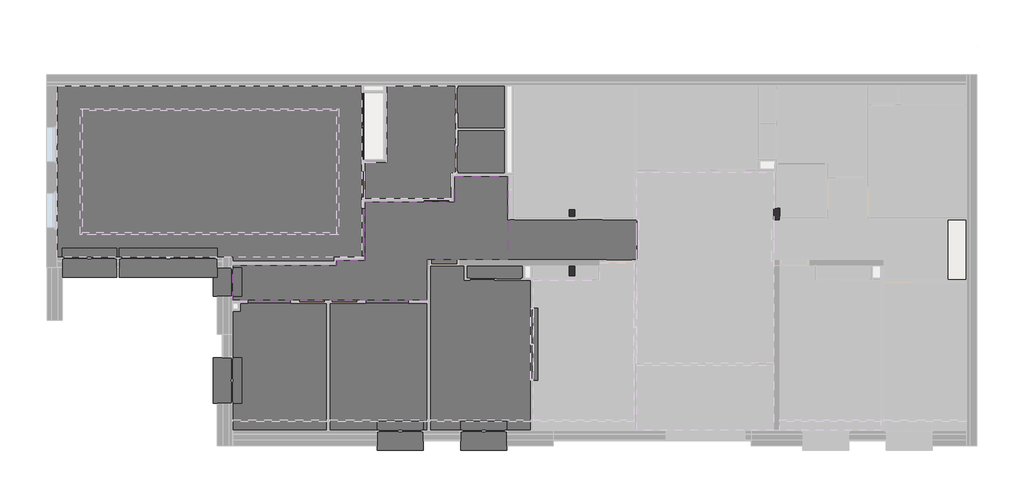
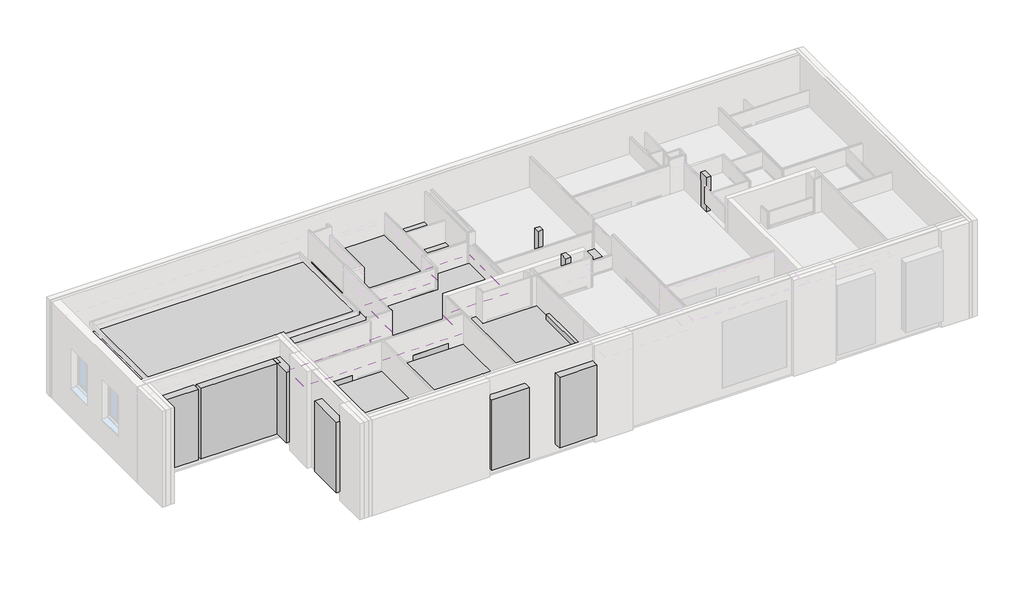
# One storey, part 7 of 8: 26 proxies, 4 furniture elements, 3 columns, 3 slabs, 1 covering.
"""IFC4 building model written with IfcOpenShell, lengths in millimetres."""

from ifc_helpers import new_model, si_unit, frame, origin, origin_with_axes, place, context, project, spatial, polyline, outline, extrude, faceted_brep, transform, mapped, element, save
from components import column_d8b84b54, column_f8625688, column_0d4067bd, furniture_7373fb7a, furniture_89aa0d74, furniture_e10027ee, furniture_c5b035db

model = new_model("IFC4")

# Units and contexts
model_context = context("Model", 3, world=origin())
ifc_project = project(units=[si_unit("LENGTHUNIT", "METRE", prefix="MILLI")], contexts=[model_context])

# Site, building, storey
site = spatial("IfcSite", under=ifc_project)
building = spatial("IfcBuilding", under=site)
storey = spatial("IfcBuildingStorey", under=building, Name="0 Mairie RDC 0.00", Elevation=0.0)

# Proxies
placement = place(None, origin())
element("IfcBuildingElementProxy", 1, Name="Pièces - SECRETARIAT GENERAL 20", ObjectType="Pièces - SECRETARIAT GENERAL 20", at=placement, inside=storey, context=model_context, shape_type="SweptSolid", body=[
    extrude(outline(polyline([(-15705.446161, -8232.7637435), (-15705.446161, -8717.779598), (-15635.446161, -8717.779598), (-15635.446161, -8232.7637435), (-13671.849822, -8232.7637435), (-13671.849822, -8752.7765879), (-13404.255006, -8752.7765879), (-13404.255006, -9728.7649845), (-13354.255006, -9728.7649845), (-13354.255006, -12228.7534329), (-13404.255006, -12228.7534329), (-13404.255006, -13978.5662223), (-14238.6355893, -13978.5662223), (-16905.446161, -13978.5662223), (-16905.446161, -9499.0775347), (-16905.446161, -8232.7637435), (-15705.446161, -8232.7637435)])), origin_with_axes(), (0.0, 0.0, 1.0), 2000.0),
])
element("IfcBuildingElementProxy", 2, Name="Pièces - BUREAU MAIRIE 21", ObjectType="Pièces - BUREAU MAIRIE 21", at=placement, inside=storey, context=model_context, shape_type="SweptSolid", body=[
    extrude(outline(polyline([(-20402.1562042, -13978.5662223), (-20402.1562042, -9549.0775347), (-17005.446161, -9549.0775347), (-17005.446161, -13978.5662223), (-20402.1562042, -13978.5662223)])), origin_with_axes(), (0.0, 0.0, 1.0), 2000.0),
])
element("IfcBuildingElementProxy", 3, Name="Pièces - BUREAU ELUS 22", ObjectType="Pièces - BUREAU ELUS 22", at=placement, inside=storey, context=model_context, shape_type="SweptSolid", body=[
    extrude(outline(polyline([(-23778.2803137, -13978.5662223), (-23778.2803137, -13036.9624952), (-23778.2803137, -10630.5073036), (-23778.2803137, -9829.2788136), (-23520.6325674, -9829.2788136), (-23520.6325674, -9549.0775347), (-20502.1562042, -9549.0775347), (-20502.1562042, -13978.5662223), (-23778.2803137, -13978.5662223)])), origin_with_axes(), (0.0, 0.0, 1.0), 2000.0),
])
element("IfcBuildingElementProxy", 4, Name="Pièces - SALLE DU CONSEIL MARIAGE 23", ObjectType="Pièces - SALLE DU CONSEIL MARIAGE 23", at=placement, inside=storey, context=model_context, shape_type="SweptSolid", body=[
    extrude(outline(polyline([(-19282.1823363, -1972.7637486), (-19282.1823363, -2187.7637486), (-19282.1823363, -4593.7637486), (-19282.1823363, -5962.7637435), (-19282.1823363, -7952.7608719), (-20211.3913721, -7952.7608719), (-20211.3913721, -8080.3569594), (-23778.2803137, -8080.3569594), (-23958.2803137, -7953.0211289), (-29887.0149756, -7953.0211289), (-29887.0149756, -1972.7637486), (-19282.1823363, -1972.7637486)])), origin_with_axes(), (0.0, 0.0, 1.0), 2000.0),
])
element("IfcBuildingElementProxy", 5, Name="Pièces - TOILETTES PUBLIQUES 24", ObjectType="Pièces - TOILETTES PUBLIQUES 24", at=placement, inside=storey, context=model_context, shape_type="SweptSolid", body=[
    extrude(outline(polyline([(-14296.7760862, -1972.7637486), (-14296.7760862, -3451.3428344), (-15980.9503686, -3451.3428344), (-15980.9503686, -3521.3428344), (-14296.7760862, -3521.3428344), (-14296.7760862, -5019.9219201), (-14320.6334573, -5019.9219201), (-16166.6269046, -5019.9219201), (-16166.6269046, -5912.7637435), (-19182.1823363, -5912.7637435), (-19182.1823363, -4643.7637486), (-18412.1823363, -4643.7637486), (-18412.1823363, -2224.3590209), (-18412.1823363, -2222.7637486), (-18412.1823363, -2187.7637486), (-18412.1823363, -1972.7637486), (-14296.7760862, -1972.7637486)])), origin_with_axes(), (0.0, 0.0, 1.0), 2000.0),
])
element("IfcBuildingElementProxy", 6, Name="Pièces - DEGAGEMENT 1 26", ObjectType="Pièces - DEGAGEMENT 1 26", at=placement, inside=storey, context=model_context, shape_type="SweptSolid", body=[
    extrude(outline(polyline([(-9708.4471465, -6632.5340392), (-9708.4471465, -8032.7867091), (-9754.6455383, -8032.7867091), (-11038.1086334, -8032.7637435), (-11858.4196435, -8032.7637435), (-12058.4196435, -8032.7637435), (-13354.255006, -8032.7637435), (-13636.849822, -8032.7637435), (-15670.446161, -8032.7637435), (-17005.446161, -8032.7637435), (-17005.446161, -9449.0775347), (-20452.1562042, -9449.0775347), (-23555.6325674, -9449.0775347), (-23778.2803137, -9449.0775347), (-23778.2803137, -9310.0211289), (-23778.2803137, -8230.3569594), (-20211.3913721, -8230.3569594), (-20211.3913721, -8052.7608719), (-19182.1823363, -8052.7608719), (-19182.1823363, -6012.7637435), (-16066.6269046, -6012.7637435), (-16066.6269046, -5119.9219201), (-14202.6238573, -5119.9219201), (-14202.6238573, -6582.5340392), (-14202.6238573, -6633.7824715), (-14132.6238573, -6633.7824715), (-14132.6238573, -6632.5340392), (-9708.4471465, -6632.5340392)])), origin_with_axes(), (0.0, 0.0, 1.0), 2000.0),
])
element("IfcBuildingElementProxy", 7, Name="Generic Models", at=placement, inside=storey, context=model_context, shape_type="SweptSolid", body=[
    extrude(outline(polyline([(-15905.446161, -8232.7637435), (-16905.446161, -8232.7637435), (-16905.446161, -8032.7637435), (-15905.446161, -8032.7637435), (-15905.446161, -8232.7637435)])), origin_with_axes(), (0.0, 0.0, 1.0), 2075.0),
])
element("IfcBuildingElementProxy", 8, Name="Generic Models", at=placement, inside=storey, context=model_context, shape_type="Brep", body=[
    faceted_brep([(-14238.6355893, -14391.5689782, 0.0), (-14238.6355893, -14058.5662223, 35.0), (-14238.6355893, -14078.5662223, 35.0), (-14238.6355893, -14078.5662223, 3185.0), (-14238.6355893, -14658.5662223, 3185.0), (-14238.6355893, -14658.5662223, 0.0), (-15838.6355893, -13658.5662223, 3185.0), (-15838.6355893, -13658.5662223, 35.0), (-15838.6355893, -13978.5662223, 35.0), (-15838.6355893, -13978.5662223, 3185.0), (-14238.6355893, -13658.5662223, 35.0), (-14238.6355893, -13978.5662223, 35.0), (-14188.6355893, -13978.5662223, 35.0), (-14188.6355893, -14028.5662223, 35.0), (-14228.6355893, -14028.5662223, 35.0), (-14228.6355893, -14078.5662223, 35.0), (-15838.6355893, -14058.5662223, 35.0), (-15838.6355893, -14078.5662223, 35.0), (-15848.6355893, -14078.5662223, 35.0), (-15848.6355893, -14028.5662223, 35.0), (-15888.6355893, -14028.5662223, 35.0), (-15888.6355893, -13978.5662223, 35.0), (-14238.6355893, -13658.5662223, 3185.0), (-15838.6355893, -14658.5662223, 3185.0), (-15838.6355893, -14078.5662223, 3185.0), (-15838.6355893, -14658.5662223, 0.0), (-15838.6355893, -14391.5689782, 0.0), (-14188.6355893, -13978.5662223, 3235.0), (-14188.6355893, -14028.5662223, 3235.0), (-15888.6355893, -14028.5662223, 3235.0), (-15848.6355893, -14028.5662223, 3195.0), (-14228.6355893, -14028.5662223, 3195.0), (-14228.6355893, -14078.5662223, 3195.0), (-15848.6355893, -14078.5662223, 3195.0), (-14238.6355893, -13978.5662223, 3185.0), (-15888.6355893, -13978.5662223, 3235.0)], [[[0, 1, 2, 3, 4, 5]], [[6, 7, 8, 9]], [[7, 10, 11, 12, 13, 14, 15, 2, 1, 16, 17, 18, 19, 20, 21, 8]], [[22, 10, 7, 6]], [[23, 4, 3, 24]], [[5, 4, 23, 25]], [[0, 5, 25, 26]], [[1, 0, 26, 16]], [[13, 12, 27, 28]], [[14, 13, 28, 29, 20, 19, 30, 31]], [[15, 14, 31, 32]], [[2, 15, 32, 33, 18, 17, 24, 3]], [[12, 11, 34, 9, 8, 21, 35, 27]], [[28, 27, 35, 29]], [[31, 30, 33, 32]], [[20, 29, 35, 21]], [[30, 19, 18, 33]], [[22, 6, 9, 34]], [[25, 23, 24, 17, 16, 26]], [[10, 22, 34, 11]]]),
])
element("IfcBuildingElementProxy", 9, Name="Generic Models", at=placement, inside=storey, context=model_context, shape_type="Brep", body=[
    faceted_brep([(-14238.6355893, -14391.5689782, 0.0), (-14238.6355893, -14058.5662223, 35.0), (-14238.6355893, -14078.5662223, 35.0), (-14238.6355893, -14078.5662223, 3185.0), (-14238.6355893, -14658.5662223, 3185.0), (-14238.6355893, -14658.5662223, 0.0), (-15838.6355893, -13658.5662223, 3185.0), (-15838.6355893, -13658.5662223, 35.0), (-15838.6355893, -13978.5662223, 35.0), (-15838.6355893, -13978.5662223, 3185.0), (-14238.6355893, -13658.5662223, 35.0), (-14238.6355893, -13978.5662223, 35.0), (-14188.6355893, -13978.5662223, 35.0), (-14188.6355893, -14028.5662223, 35.0), (-14228.6355893, -14028.5662223, 35.0), (-14228.6355893, -14078.5662223, 35.0), (-15838.6355893, -14058.5662223, 35.0), (-15838.6355893, -14078.5662223, 35.0), (-15848.6355893, -14078.5662223, 35.0), (-15848.6355893, -14028.5662223, 35.0), (-15888.6355893, -14028.5662223, 35.0), (-15888.6355893, -13978.5662223, 35.0), (-14238.6355893, -13658.5662223, 3185.0), (-15838.6355893, -14658.5662223, 3185.0), (-15838.6355893, -14078.5662223, 3185.0), (-15838.6355893, -14658.5662223, 0.0), (-15838.6355893, -14391.5689782, 0.0), (-14188.6355893, -13978.5662223, 3235.0), (-14188.6355893, -14028.5662223, 3235.0), (-15888.6355893, -14028.5662223, 3235.0), (-15848.6355893, -14028.5662223, 3195.0), (-14228.6355893, -14028.5662223, 3195.0), (-14228.6355893, -14078.5662223, 3195.0), (-15848.6355893, -14078.5662223, 3195.0), (-14238.6355893, -13978.5662223, 3185.0), (-15888.6355893, -13978.5662223, 3235.0)], [[[0, 1, 2, 3, 4, 5]], [[6, 7, 8, 9]], [[7, 10, 11, 12, 13, 14, 15, 2, 1, 16, 17, 18, 19, 20, 21, 8]], [[22, 10, 7, 6]], [[23, 4, 3, 24]], [[5, 4, 23, 25]], [[0, 5, 25, 26]], [[1, 0, 26, 16]], [[13, 12, 27, 28]], [[14, 13, 28, 29, 20, 19, 30, 31]], [[15, 14, 31, 32]], [[2, 15, 32, 33, 18, 17, 24, 3]], [[12, 11, 34, 9, 8, 21, 35, 27]], [[28, 27, 35, 29]], [[31, 30, 33, 32]], [[20, 29, 35, 21]], [[30, 19, 18, 33]], [[22, 6, 9, 34]], [[25, 23, 24, 17, 16, 26]], [[10, 22, 34, 11]]]),
])
element("IfcBuildingElementProxy", 10, Name="Generic Models", at=placement, inside=storey, context=model_context, shape_type="Brep", body=[
    faceted_brep([(-17138.6355893, -14391.5689782, 0.0), (-17138.6355893, -14058.5662223, 35.0), (-17138.6355893, -14078.5662223, 35.0), (-17138.6355893, -14078.5662223, 3185.0), (-17138.6355893, -14658.5662223, 3185.0), (-17138.6355893, -14658.5662223, 0.0), (-18738.6355893, -13658.5662223, 3185.0), (-18738.6355893, -13658.5662223, 35.0), (-18738.6355893, -13978.5662223, 35.0), (-18738.6355893, -13978.5662223, 3185.0), (-17138.6355893, -13658.5662223, 35.0), (-17138.6355893, -13978.5662223, 35.0), (-17088.6355893, -13978.5662223, 35.0), (-17088.6355893, -14028.5662223, 35.0), (-17128.6355893, -14028.5662223, 35.0), (-17128.6355893, -14078.5662223, 35.0), (-18738.6355893, -14058.5662223, 35.0), (-18738.6355893, -14078.5662223, 35.0), (-18748.6355893, -14078.5662223, 35.0), (-18748.6355893, -14028.5662223, 35.0), (-18788.6355893, -14028.5662223, 35.0), (-18788.6355893, -13978.5662223, 35.0), (-17138.6355893, -13658.5662223, 3185.0), (-18738.6355893, -14658.5662223, 3185.0), (-18738.6355893, -14078.5662223, 3185.0), (-18738.6355893, -14658.5662223, 0.0), (-18738.6355893, -14391.5689782, 0.0), (-17088.6355893, -13978.5662223, 3235.0), (-17088.6355893, -14028.5662223, 3235.0), (-18788.6355893, -14028.5662223, 3235.0), (-18748.6355893, -14028.5662223, 3195.0), (-17128.6355893, -14028.5662223, 3195.0), (-17128.6355893, -14078.5662223, 3195.0), (-18748.6355893, -14078.5662223, 3195.0), (-17138.6355893, -13978.5662223, 3185.0), (-18788.6355893, -13978.5662223, 3235.0)], [[[0, 1, 2, 3, 4, 5]], [[6, 7, 8, 9]], [[7, 10, 11, 12, 13, 14, 15, 2, 1, 16, 17, 18, 19, 20, 21, 8]], [[22, 10, 7, 6]], [[23, 4, 3, 24]], [[5, 4, 23, 25]], [[0, 5, 25, 26]], [[1, 0, 26, 16]], [[13, 12, 27, 28]], [[14, 13, 28, 29, 20, 19, 30, 31]], [[15, 14, 31, 32]], [[2, 15, 32, 33, 18, 17, 24, 3]], [[12, 11, 34, 9, 8, 21, 35, 27]], [[28, 27, 35, 29]], [[31, 30, 33, 32]], [[20, 29, 35, 21]], [[30, 19, 18, 33]], [[22, 6, 9, 34]], [[25, 23, 24, 17, 16, 26]], [[10, 22, 34, 11]]]),
])
element("IfcBuildingElementProxy", 11, Name="Generic Models", at=placement, inside=storey, context=model_context, shape_type="Brep", body=[
    faceted_brep([(-17138.6355893, -14391.5689782, 0.0), (-17138.6355893, -14058.5662223, 35.0), (-17138.6355893, -14078.5662223, 35.0), (-17138.6355893, -14078.5662223, 3185.0), (-17138.6355893, -14658.5662223, 3185.0), (-17138.6355893, -14658.5662223, 0.0), (-18738.6355893, -13658.5662223, 3185.0), (-18738.6355893, -13658.5662223, 35.0), (-18738.6355893, -13978.5662223, 35.0), (-18738.6355893, -13978.5662223, 3185.0), (-17138.6355893, -13658.5662223, 35.0), (-17138.6355893, -13978.5662223, 35.0), (-17088.6355893, -13978.5662223, 35.0), (-17088.6355893, -14028.5662223, 35.0), (-17128.6355893, -14028.5662223, 35.0), (-17128.6355893, -14078.5662223, 35.0), (-18738.6355893, -14058.5662223, 35.0), (-18738.6355893, -14078.5662223, 35.0), (-18748.6355893, -14078.5662223, 35.0), (-18748.6355893, -14028.5662223, 35.0), (-18788.6355893, -14028.5662223, 35.0), (-18788.6355893, -13978.5662223, 35.0), (-17138.6355893, -13658.5662223, 3185.0), (-18738.6355893, -14658.5662223, 3185.0), (-18738.6355893, -14078.5662223, 3185.0), (-18738.6355893, -14658.5662223, 0.0), (-18738.6355893, -14391.5689782, 0.0), (-17088.6355893, -13978.5662223, 3235.0), (-17088.6355893, -14028.5662223, 3235.0), (-18788.6355893, -14028.5662223, 3235.0), (-18748.6355893, -14028.5662223, 3195.0), (-17128.6355893, -14028.5662223, 3195.0), (-17128.6355893, -14078.5662223, 3195.0), (-18748.6355893, -14078.5662223, 3195.0), (-17138.6355893, -13978.5662223, 3185.0), (-18788.6355893, -13978.5662223, 3235.0)], [[[0, 1, 2, 3, 4, 5]], [[6, 7, 8, 9]], [[7, 10, 11, 12, 13, 14, 15, 2, 1, 16, 17, 18, 19, 20, 21, 8]], [[22, 10, 7, 6]], [[23, 4, 3, 24]], [[5, 4, 23, 25]], [[0, 5, 25, 26]], [[1, 0, 26, 16]], [[13, 12, 27, 28]], [[14, 13, 28, 29, 20, 19, 30, 31]], [[15, 14, 31, 32]], [[2, 15, 32, 33, 18, 17, 24, 3]], [[12, 11, 34, 9, 8, 21, 35, 27]], [[28, 27, 35, 29]], [[31, 30, 33, 32]], [[20, 29, 35, 21]], [[30, 19, 18, 33]], [[22, 6, 9, 34]], [[25, 23, 24, 17, 16, 26]], [[10, 22, 34, 11]]]),
])
element("IfcBuildingElementProxy", 12, Name="Generic Models", at=placement, inside=storey, context=model_context, shape_type="Brep", body=[
    faceted_brep([(-24191.2830696, -13036.9624952, 0.0), (-23858.2803137, -13036.9624952, 35.0), (-23878.2803137, -13036.9624952, 35.0), (-23878.2803137, -13036.9624952, 3185.0), (-24458.2803137, -13036.9624952, 3185.0), (-24458.2803137, -13036.9624952, 0.0), (-23458.2803137, -11436.9624952, 3185.0), (-23458.2803137, -11436.9624952, 35.0), (-23778.2803137, -11436.9624952, 35.0), (-23778.2803137, -11436.9624952, 3185.0), (-23458.2803137, -13036.9624952, 35.0), (-23778.2803137, -13036.9624952, 35.0), (-23778.2803137, -13086.9624952, 35.0), (-23828.2803137, -13086.9624952, 35.0), (-23828.2803137, -13046.9624952, 35.0), (-23878.2803137, -13046.9624952, 35.0), (-23858.2803137, -11436.9624952, 35.0), (-23878.2803137, -11436.9624952, 35.0), (-23878.2803137, -11426.9624952, 35.0), (-23828.2803137, -11426.9624952, 35.0), (-23828.2803137, -11386.9624952, 35.0), (-23778.2803137, -11386.9624952, 35.0), (-23458.2803137, -13036.9624952, 3185.0), (-24458.2803137, -11436.9624952, 3185.0), (-23878.2803137, -11436.9624952, 3185.0), (-24458.2803137, -11436.9624952, 0.0), (-24191.2830696, -11436.9624952, 0.0), (-23778.2803137, -13086.9624952, 3235.0), (-23828.2803137, -13086.9624952, 3235.0), (-23828.2803137, -11386.9624952, 3235.0), (-23828.2803137, -11426.9624952, 3195.0), (-23828.2803137, -13046.9624952, 3195.0), (-23878.2803137, -13046.9624952, 3195.0), (-23878.2803137, -11426.9624952, 3195.0), (-23778.2803137, -13036.9624952, 3185.0), (-23778.2803137, -11386.9624952, 3235.0)], [[[0, 1, 2, 3, 4, 5]], [[6, 7, 8, 9]], [[7, 10, 11, 12, 13, 14, 15, 2, 1, 16, 17, 18, 19, 20, 21, 8]], [[22, 10, 7, 6]], [[23, 4, 3, 24]], [[5, 4, 23, 25]], [[0, 5, 25, 26]], [[1, 0, 26, 16]], [[13, 12, 27, 28]], [[14, 13, 28, 29, 20, 19, 30, 31]], [[15, 14, 31, 32]], [[2, 15, 32, 33, 18, 17, 24, 3]], [[12, 11, 34, 9, 8, 21, 35, 27]], [[28, 27, 35, 29]], [[31, 30, 33, 32]], [[20, 29, 35, 21]], [[30, 19, 18, 33]], [[22, 6, 9, 34]], [[25, 23, 24, 17, 16, 26]], [[10, 22, 34, 11]]]),
])
element("IfcBuildingElementProxy", 13, Name="Generic Models", at=placement, inside=storey, context=model_context, shape_type="Brep", body=[
    faceted_brep([(-24191.2830696, -13036.9624952, 0.0), (-23858.2803137, -13036.9624952, 35.0), (-23878.2803137, -13036.9624952, 35.0), (-23878.2803137, -13036.9624952, 3185.0), (-24458.2803137, -13036.9624952, 3185.0), (-24458.2803137, -13036.9624952, 0.0), (-23458.2803137, -11436.9624952, 3185.0), (-23458.2803137, -11436.9624952, 35.0), (-23778.2803137, -11436.9624952, 35.0), (-23778.2803137, -11436.9624952, 3185.0), (-23458.2803137, -13036.9624952, 35.0), (-23778.2803137, -13036.9624952, 35.0), (-23778.2803137, -13086.9624952, 35.0), (-23828.2803137, -13086.9624952, 35.0), (-23828.2803137, -13046.9624952, 35.0), (-23878.2803137, -13046.9624952, 35.0), (-23858.2803137, -11436.9624952, 35.0), (-23878.2803137, -11436.9624952, 35.0), (-23878.2803137, -11426.9624952, 35.0), (-23828.2803137, -11426.9624952, 35.0), (-23828.2803137, -11386.9624952, 35.0), (-23778.2803137, -11386.9624952, 35.0), (-23458.2803137, -13036.9624952, 3185.0), (-24458.2803137, -11436.9624952, 3185.0), (-23878.2803137, -11436.9624952, 3185.0), (-24458.2803137, -11436.9624952, 0.0), (-24191.2830696, -11436.9624952, 0.0), (-23778.2803137, -13086.9624952, 3235.0), (-23828.2803137, -13086.9624952, 3235.0), (-23828.2803137, -11386.9624952, 3235.0), (-23828.2803137, -11426.9624952, 3195.0), (-23828.2803137, -13046.9624952, 3195.0), (-23878.2803137, -13046.9624952, 3195.0), (-23878.2803137, -11426.9624952, 3195.0), (-23778.2803137, -13036.9624952, 3185.0), (-23778.2803137, -11386.9624952, 3235.0)], [[[0, 1, 2, 3, 4, 5]], [[6, 7, 8, 9]], [[7, 10, 11, 12, 13, 14, 15, 2, 1, 16, 17, 18, 19, 20, 21, 8]], [[22, 10, 7, 6]], [[23, 4, 3, 24]], [[5, 4, 23, 25]], [[0, 5, 25, 26]], [[1, 0, 26, 16]], [[13, 12, 27, 28]], [[14, 13, 28, 29, 20, 19, 30, 31]], [[15, 14, 31, 32]], [[2, 15, 32, 33, 18, 17, 24, 3]], [[12, 11, 34, 9, 8, 21, 35, 27]], [[28, 27, 35, 29]], [[31, 30, 33, 32]], [[20, 29, 35, 21]], [[30, 19, 18, 33]], [[22, 6, 9, 34]], [[25, 23, 24, 17, 16, 26]], [[10, 22, 34, 11]]]),
])
element("IfcBuildingElementProxy", 14, Name="Generic Models", at=placement, inside=storey, context=model_context, shape_type="Brep", body=[
    faceted_brep([(-24191.2830696, -9310.0211289, 0.0), (-23858.2803137, -9310.0211289, 35.0), (-23878.2803137, -9310.0211289, 35.0), (-23878.2803137, -9310.0211289, 3185.0), (-24458.2803137, -9310.0211289, 3185.0), (-24458.2803137, -9310.0211289, 0.0), (-23458.2803137, -8310.0211289, 3185.0), (-23458.2803137, -8310.0211289, 35.0), (-23778.2803137, -8310.0211289, 35.0), (-23778.2803137, -8310.0211289, 3185.0), (-23458.2803137, -9310.0211289, 35.0), (-23778.2803137, -9310.0211289, 35.0), (-23778.2803137, -9360.0211289, 35.0), (-23828.2803137, -9360.0211289, 35.0), (-23828.2803137, -9320.0211289, 35.0), (-23878.2803137, -9320.0211289, 35.0), (-23858.2803137, -8310.0211289, 35.0), (-23878.2803137, -8310.0211289, 35.0), (-23878.2803137, -8300.0211289, 35.0), (-23828.2803137, -8300.0211289, 35.0), (-23828.2803137, -8260.0211289, 35.0), (-23778.2803137, -8260.0211289, 35.0), (-23458.2803137, -9310.0211289, 3185.0), (-24458.2803137, -8310.0211289, 3185.0), (-23878.2803137, -8310.0211289, 3185.0), (-24458.2803137, -8310.0211289, 0.0), (-24191.2830696, -8310.0211289, 0.0), (-23778.2803137, -9360.0211289, 3235.0), (-23828.2803137, -9360.0211289, 3235.0), (-23828.2803137, -8260.0211289, 3235.0), (-23828.2803137, -8300.0211289, 3195.0), (-23828.2803137, -9320.0211289, 3195.0), (-23878.2803137, -9320.0211289, 3195.0), (-23878.2803137, -8300.0211289, 3195.0), (-23778.2803137, -9310.0211289, 3185.0), (-23778.2803137, -8260.0211289, 3235.0)], [[[0, 1, 2, 3, 4, 5]], [[6, 7, 8, 9]], [[7, 10, 11, 12, 13, 14, 15, 2, 1, 16, 17, 18, 19, 20, 21, 8]], [[22, 10, 7, 6]], [[23, 4, 3, 24]], [[5, 4, 23, 25]], [[0, 5, 25, 26]], [[1, 0, 26, 16]], [[13, 12, 27, 28]], [[14, 13, 28, 29, 20, 19, 30, 31]], [[15, 14, 31, 32]], [[2, 15, 32, 33, 18, 17, 24, 3]], [[12, 11, 34, 9, 8, 21, 35, 27]], [[28, 27, 35, 29]], [[31, 30, 33, 32]], [[20, 29, 35, 21]], [[30, 19, 18, 33]], [[22, 6, 9, 34]], [[25, 23, 24, 17, 16, 26]], [[10, 22, 34, 11]]]),
])
element("IfcBuildingElementProxy", 15, Name="Generic Models", at=placement, inside=storey, context=model_context, shape_type="Brep", body=[
    faceted_brep([(-24191.2830696, -9310.0211289, 0.0), (-23858.2803137, -9310.0211289, 35.0), (-23878.2803137, -9310.0211289, 35.0), (-23878.2803137, -9310.0211289, 3185.0), (-24458.2803137, -9310.0211289, 3185.0), (-24458.2803137, -9310.0211289, 0.0), (-23458.2803137, -8310.0211289, 3185.0), (-23458.2803137, -8310.0211289, 35.0), (-23778.2803137, -8310.0211289, 35.0), (-23778.2803137, -8310.0211289, 3185.0), (-23458.2803137, -9310.0211289, 35.0), (-23778.2803137, -9310.0211289, 35.0), (-23778.2803137, -9360.0211289, 35.0), (-23828.2803137, -9360.0211289, 35.0), (-23828.2803137, -9320.0211289, 35.0), (-23878.2803137, -9320.0211289, 35.0), (-23858.2803137, -8310.0211289, 35.0), (-23878.2803137, -8310.0211289, 35.0), (-23878.2803137, -8300.0211289, 35.0), (-23828.2803137, -8300.0211289, 35.0), (-23828.2803137, -8260.0211289, 35.0), (-23778.2803137, -8260.0211289, 35.0), (-23458.2803137, -9310.0211289, 3185.0), (-24458.2803137, -8310.0211289, 3185.0), (-23878.2803137, -8310.0211289, 3185.0), (-24458.2803137, -8310.0211289, 0.0), (-24191.2830696, -8310.0211289, 0.0), (-23778.2803137, -9360.0211289, 3235.0), (-23828.2803137, -9360.0211289, 3235.0), (-23828.2803137, -8260.0211289, 3235.0), (-23828.2803137, -8300.0211289, 3195.0), (-23828.2803137, -9320.0211289, 3195.0), (-23878.2803137, -9320.0211289, 3195.0), (-23878.2803137, -8300.0211289, 3195.0), (-23778.2803137, -9310.0211289, 3185.0), (-23778.2803137, -8260.0211289, 3235.0)], [[[0, 1, 2, 3, 4, 5]], [[6, 7, 8, 9]], [[7, 10, 11, 12, 13, 14, 15, 2, 1, 16, 17, 18, 19, 20, 21, 8]], [[22, 10, 7, 6]], [[23, 4, 3, 24]], [[5, 4, 23, 25]], [[0, 5, 25, 26]], [[1, 0, 26, 16]], [[13, 12, 27, 28]], [[14, 13, 28, 29, 20, 19, 30, 31]], [[15, 14, 31, 32]], [[2, 15, 32, 33, 18, 17, 24, 3]], [[12, 11, 34, 9, 8, 21, 35, 27]], [[28, 27, 35, 29]], [[31, 30, 33, 32]], [[20, 29, 35, 21]], [[30, 19, 18, 33]], [[22, 6, 9, 34]], [[25, 23, 24, 17, 16, 26]], [[10, 22, 34, 11]]]),
])
element("IfcBuildingElementProxy", 16, Name="Generic Models", at=placement, inside=storey, context=model_context, shape_type="Brep", body=[
    faceted_brep([(-27823.4832661, -8366.0238848, 0.0), (-27823.4832661, -8033.0211289, 35.0), (-27823.4832661, -8053.0211289, 35.0), (-27823.4832661, -8053.0211289, 3185.0), (-27823.4832661, -8633.0211289, 3185.0), (-27823.4832661, -8633.0211289, 0.0), (-29723.4832661, -7633.0211289, 3185.0), (-29723.4832661, -7633.0211289, 35.0), (-29723.4832661, -7953.0211289, 35.0), (-29723.4832661, -7953.0211289, 3185.0), (-27823.4832661, -7633.0211289, 35.0), (-27823.4832661, -7953.0211289, 35.0), (-27773.4832661, -7953.0211289, 35.0), (-27773.4832661, -8003.0211289, 35.0), (-27813.4832661, -8003.0211289, 35.0), (-27813.4832661, -8053.0211289, 35.0), (-29723.4832661, -8033.0211289, 35.0), (-29723.4832661, -8053.0211289, 35.0), (-29733.4832661, -8053.0211289, 35.0), (-29733.4832661, -8003.0211289, 35.0), (-29773.4832661, -8003.0211289, 35.0), (-29773.4832661, -7953.0211289, 35.0), (-27823.4832661, -7633.0211289, 3185.0), (-29723.4832661, -8633.0211289, 3185.0), (-29723.4832661, -8053.0211289, 3185.0), (-29723.4832661, -8633.0211289, 0.0), (-29723.4832661, -8366.0238848, 0.0), (-27773.4832661, -7953.0211289, 3235.0), (-27773.4832661, -8003.0211289, 3235.0), (-29773.4832661, -8003.0211289, 3235.0), (-29733.4832661, -8003.0211289, 3195.0), (-27813.4832661, -8003.0211289, 3195.0), (-27813.4832661, -8053.0211289, 3195.0), (-29733.4832661, -8053.0211289, 3195.0), (-27823.4832661, -7953.0211289, 3185.0), (-29773.4832661, -7953.0211289, 3235.0)], [[[0, 1, 2, 3, 4, 5]], [[6, 7, 8, 9]], [[7, 10, 11, 12, 13, 14, 15, 2, 1, 16, 17, 18, 19, 20, 21, 8]], [[22, 10, 7, 6]], [[23, 4, 3, 24]], [[5, 4, 23, 25]], [[0, 5, 25, 26]], [[1, 0, 26, 16]], [[13, 12, 27, 28]], [[14, 13, 28, 29, 20, 19, 30, 31]], [[15, 14, 31, 32]], [[2, 15, 32, 33, 18, 17, 24, 3]], [[12, 11, 34, 9, 8, 21, 35, 27]], [[28, 27, 35, 29]], [[31, 30, 33, 32]], [[20, 29, 35, 21]], [[30, 19, 18, 33]], [[22, 6, 9, 34]], [[25, 23, 24, 17, 16, 26]], [[10, 22, 34, 11]]]),
])
element("IfcBuildingElementProxy", 17, Name="Generic Models", at=placement, inside=storey, context=model_context, shape_type="Brep", body=[
    faceted_brep([(-24322.6070707, -8366.0238848, 0.0), (-24322.6070707, -8033.0211289, 35.0), (-24322.6070707, -8053.0211289, 35.0), (-24322.6070707, -8053.0211289, 3185.0), (-24322.6070707, -8633.0211289, 3185.0), (-24322.6070707, -8633.0211289, 0.0), (-27722.6070707, -7633.0211289, 3185.0), (-27722.6070707, -7633.0211289, 35.0), (-27722.6070707, -7953.0211289, 35.0), (-27722.6070707, -7953.0211289, 3185.0), (-24322.6070707, -7633.0211289, 35.0), (-24322.6070707, -7953.0211289, 35.0), (-24272.6070707, -7953.0211289, 35.0), (-24272.6070707, -8003.0211289, 35.0), (-24312.6070707, -8003.0211289, 35.0), (-24312.6070707, -8053.0211289, 35.0), (-27722.6070707, -8033.0211289, 35.0), (-27722.6070707, -8053.0211289, 35.0), (-27732.6070707, -8053.0211289, 35.0), (-27732.6070707, -8003.0211289, 35.0), (-27772.6070707, -8003.0211289, 35.0), (-27772.6070707, -7953.0211289, 35.0), (-24322.6070707, -7633.0211289, 3185.0), (-27722.6070707, -8633.0211289, 3185.0), (-27722.6070707, -8053.0211289, 3185.0), (-27722.6070707, -8633.0211289, 0.0), (-27722.6070707, -8366.0238848, 0.0), (-24272.6070707, -7953.0211289, 3235.0), (-24272.6070707, -8003.0211289, 3235.0), (-27772.6070707, -8003.0211289, 3235.0), (-27732.6070707, -8003.0211289, 3195.0), (-24312.6070707, -8003.0211289, 3195.0), (-24312.6070707, -8053.0211289, 3195.0), (-27732.6070707, -8053.0211289, 3195.0), (-24322.6070707, -7953.0211289, 3185.0), (-27772.6070707, -7953.0211289, 3235.0)], [[[0, 1, 2, 3, 4, 5]], [[6, 7, 8, 9]], [[7, 10, 11, 12, 13, 14, 15, 2, 1, 16, 17, 18, 19, 20, 21, 8]], [[22, 10, 7, 6]], [[23, 4, 3, 24]], [[5, 4, 23, 25]], [[0, 5, 25, 26]], [[1, 0, 26, 16]], [[13, 12, 27, 28]], [[14, 13, 28, 29, 20, 19, 30, 31]], [[15, 14, 31, 32]], [[2, 15, 32, 33, 18, 17, 24, 3]], [[12, 11, 34, 9, 8, 21, 35, 27]], [[28, 27, 35, 29]], [[31, 30, 33, 32]], [[20, 29, 35, 21]], [[30, 19, 18, 33]], [[22, 6, 9, 34]], [[25, 23, 24, 17, 16, 26]], [[10, 22, 34, 11]]]),
])
element("IfcBuildingElementProxy", 18, Name="Generic Models", at=placement, inside=storey, context=model_context, shape_type="SweptSolid", body=[
    extrude(outline(polyline([(-13556.655006, -12228.7649845), (-13556.655006, -9728.7649845), (-13151.855006, -9728.7649845), (-13151.855006, -12228.7649845), (-13556.655006, -12228.7649845)])), origin_with_axes(), (0.0, 0.0, 1.0), 2250.0),
])
element("IfcBuildingElementProxy", 19, Name="Generic Models", at=placement, inside=storey, context=model_context, shape_type="SweptSolid", body=[
    extrude(outline(polyline([(-17181.6269046, -5912.7637435), (-16181.6269046, -5912.7637435), (-16181.6269046, -6012.7637435), (-17181.6269046, -6012.7637435), (-17181.6269046, -5912.7637435)])), origin_with_axes(), (0.0, 0.0, 1.0), 2075.0),
])
element("IfcBuildingElementProxy", 20, Name="Generic Models", at=placement, inside=storey, context=model_context, shape_type="SweptSolid", body=[
    extrude(outline(polyline([(-19282.1823363, -4542.7637486), (-19282.1823363, -2222.7637486), (-19212.1823363, -2222.7637486), (-19212.1823363, -4542.7637486), (-19282.1823363, -4542.7637486)])), origin_with_axes(), (0.0, 0.0, 1.0), 2100.0),
])
element("IfcBuildingElementProxy", 21, Name="Generic Models", at=placement, inside=storey, context=model_context, shape_type="SweptSolid", body=[
    extrude(outline(polyline([(-19147.7536837, -9449.0775347), (-17647.7536837, -9449.0775347), (-17647.7536837, -9549.0775347), (-19147.7536837, -9549.0775347), (-19147.7536837, -9449.0775347)])), frame((0.0, 0.0, 1000.0), z_axis=(0.0, 0.0, 1.0), x_axis=(1.0, 0.0, 0.0)), (0.0, 0.0, 1.0), 1250.0),
])
element("IfcBuildingElementProxy", 22, Name="Generic Models", at=placement, inside=storey, context=model_context, shape_type="SweptSolid", body=[
    extrude(outline(polyline([(-23250.7759366, -9449.0775347), (-21750.7759366, -9449.0775347), (-21750.7759366, -9549.0775347), (-23250.7759366, -9549.0775347), (-23250.7759366, -9449.0775347)])), frame((0.0, 0.0, 1000.0), z_axis=(0.0, 0.0, 1.0), x_axis=(1.0, 0.0, 0.0)), (0.0, 0.0, 1.0), 1250.0),
])
element("IfcBuildingElementProxy", 23, Name="Generic Models", at=placement, inside=storey, context=model_context, shape_type="SweptSolid", body=[
    extrude(outline(polyline([(-20517.1562042, -9549.0775347), (-21517.1562042, -9549.0775347), (-21517.1562042, -9449.0775347), (-20517.1562042, -9449.0775347), (-20517.1562042, -9549.0775347)])), origin_with_axes(), (0.0, 0.0, 1.0), 2075.0),
])
element("IfcBuildingElementProxy", 24, Name="Generic Models", at=placement, inside=storey, context=model_context, shape_type="SweptSolid", body=[
    extrude(outline(polyline([(-19387.1562042, -9549.0775347), (-20387.1562042, -9549.0775347), (-20387.1562042, -9449.0775347), (-19387.1562042, -9449.0775347), (-19387.1562042, -9549.0775347)])), origin_with_axes(), (0.0, 0.0, 1.0), 2075.0),
])
element("IfcBuildingElementProxy", 25, Name="Generic Models", at=placement, inside=storey, context=model_context, shape_type="SweptSolid", body=[
    extrude(outline(polyline([(-19182.1823363, -4897.7637435), (-19182.1823363, -5897.7637435), (-19282.1823363, -5897.7637435), (-19282.1823363, -4897.7637435), (-19182.1823363, -4897.7637435)])), origin_with_axes(), (0.0, 0.0, 1.0), 2075.0),
])
element("IfcBuildingElementProxy", 26, Name="Generic Models", at=placement, inside=storey, context=model_context, shape_type="SweptSolid", body=[
    extrude(outline(polyline([(-19282.1823363, -7914.4612155), (-19282.1823363, -6244.4612155), (-19182.1823363, -6244.4612155), (-19182.1823363, -7914.4612155), (-19282.1823363, -7914.4612155)])), origin_with_axes(), (0.0, 0.0, 1.0), 2075.0),
])

# Columns
column_shape = column_d8b84b54(model_context)
element("IfcColumn", 27, ObjectType="Poteaux porteurs - Poteau béton - Rectangulaire - 2000mm x 400mm", at=placement, inside=storey, context=model_context, shape_type="MappedRepresentation", body=[
    mapped(column_shape, transform((-4827.496702, -6433.7824715, 0.0), x_axis=(1.0, 0.0, 0.0), y_axis=(0.0, 1.0, 0.0), z_axis=(0.0, 0.0, 1.0))),
])
column_2_shape = column_f8625688(model_context)
element("IfcColumn", 28, ObjectType="Poteaux porteurs - Poteau béton - Rectangulaire - 2000mm x 240 mm", at=placement, inside=storey, context=model_context, shape_type="MappedRepresentation", body=[
    mapped(column_2_shape, transform((-11958.5461708, -6412.5340392, 0.0), x_axis=(1.0, 0.0, 0.0), y_axis=(0.0, 1.0, 0.0), z_axis=(0.0, 0.0, 1.0))),
])
column_3_shape = column_0d4067bd(model_context)
element("IfcColumn", 29, ObjectType="Poteaux porteurs - Poteau béton - Rectangulaire - 2000mm x 350 mm", at=placement, inside=storey, context=model_context, shape_type="MappedRepresentation", body=[
    mapped(column_3_shape, transform((0.0, 0.0, 0.0), x_axis=(1.0, 0.0, 0.0), y_axis=(0.0, 1.0, 0.0), z_axis=(0.0, 0.0, 1.0))),
])

# Covering
element("IfcCovering", 30, ObjectType="Plafonds - Plafond composé - A Plafond plaque de platre ba10 (5)", at=placement, inside=storey, context=model_context, shape_type="SweptSolid", body=[
    extrude(outline(polyline([(-23778.2803137, -9449.0775347), (-23778.2803137, -8230.3569594), (-20176.3913721, -8230.3569594), (-20176.3913721, -8052.7608719), (-19182.1823363, -8052.7608719), (-19182.1823363, -6012.7637435), (-16066.6269046, -6012.7637435), (-16066.6269046, -5119.9219201), (-14202.6238573, -5119.9219201), (-14202.6238573, -6679.7637435), (-14202.6238573, -8032.7637435), (-17005.446161, -8032.7637435), (-17005.446161, -9449.0775347), (-23778.2803137, -9449.0775347)])), frame((0.0, 0.0, 2400.0), z_axis=(0.0, 0.0, 1.0), x_axis=(1.0, 0.0, 0.0)), (0.0, 0.0, 1.0), 40.0),
    extrude(outline(polyline([(-23778.2803137, -9449.0775347), (-23778.2803137, -8230.3569594), (-20176.3913721, -8230.3569594), (-20176.3913721, -8052.7608719), (-19182.1823363, -8052.7608719), (-19182.1823363, -6012.7637435), (-16066.6269046, -6012.7637435), (-16066.6269046, -5119.9219201), (-14202.6238573, -5119.9219201), (-14202.6238573, -6679.7637435), (-14202.6238573, -8032.7637435), (-17005.446161, -8032.7637435), (-17005.446161, -9449.0775347), (-23778.2803137, -9449.0775347)])), frame((0.0, 0.0, 2440.0), z_axis=(0.0, 0.0, 1.0), x_axis=(1.0, 0.0, 0.0)), (0.0, 0.0, 1.0), 10.0),
    extrude(outline(polyline([(1777.6156007, -6633.7824715), (1777.6156007, -8731.1038426), (1127.9012584, -8731.1038426), (1127.9012584, -6633.7824715), (1777.6156007, -6633.7824715)])), frame((0.0, 0.0, 2400.0), z_axis=(0.0, 0.0, 1.0), x_axis=(1.0, 0.0, 0.0)), (0.0, 0.0, 1.0), 40.0),
    extrude(outline(polyline([(1777.6156007, -6633.7824715), (1777.6156007, -8731.1038426), (1127.9012584, -8731.1038426), (1127.9012584, -6633.7824715), (1777.6156007, -6633.7824715)])), frame((0.0, 0.0, 2440.0), z_axis=(0.0, 0.0, 1.0), x_axis=(1.0, 0.0, 0.0)), (0.0, 0.0, 1.0), 10.0),
    extrude(outline(polyline([(-13946.7760862, -8032.7637435), (-13946.7760862, -6632.5340392), (-9708.4471465, -6632.5340392), (-9708.4471465, -8032.7637435), (-13946.7760862, -8032.7637435)])), frame((0.0, 0.0, 2400.0), z_axis=(0.0, 0.0, 1.0), x_axis=(1.0, 0.0, 0.0)), (0.0, 0.0, 1.0), 40.0),
    extrude(outline(polyline([(-13946.7760862, -8032.7637435), (-13946.7760862, -6632.5340392), (-9708.4471465, -6632.5340392), (-9708.4471465, -8032.7637435), (-13946.7760862, -8032.7637435)])), frame((0.0, 0.0, 2440.0), z_axis=(0.0, 0.0, 1.0), x_axis=(1.0, 0.0, 0.0)), (0.0, 0.0, 1.0), 10.0),
    extrude(outline(polyline([(-3018.9176162, -6633.7824715), (-3018.9176162, -5237.6533676), (-1717.7552543, -5237.6533676), (-1717.7552543, -6633.7824715), (1057.9012584, -6633.7824715), (1057.9012584, -8731.1038426), (-1106.3922233, -8731.1038426), (-1106.3922233, -8038.2685444), (-4927.496702, -8038.2685444), (-4927.496702, -6633.7824715), (-3018.9176162, -6633.7824715)])), frame((0.0, 0.0, 2400.0), z_axis=(0.0, 0.0, 1.0), x_axis=(1.0, 0.0, 0.0)), (0.0, 0.0, 1.0), 40.0),
    extrude(outline(polyline([(-3018.9176162, -6633.7824715), (-3018.9176162, -5237.6533676), (-1717.7552543, -5237.6533676), (-1717.7552543, -6633.7824715), (1057.9012584, -6633.7824715), (1057.9012584, -8731.1038426), (-1106.3922233, -8731.1038426), (-1106.3922233, -8038.2685444), (-4927.496702, -8038.2685444), (-4927.496702, -6633.7824715), (-3018.9176162, -6633.7824715)])), frame((0.0, 0.0, 2440.0), z_axis=(0.0, 0.0, 1.0), x_axis=(1.0, 0.0, 0.0)), (0.0, 0.0, 1.0), 10.0),
])

# Furniture
furniture_shape = furniture_7373fb7a(model_context)
element("IfcFurniture", 31, ObjectType="Mobilier - Table basse - 01 - 82 x 84 x 37 cm - Blanc brillant", at=placement, inside=storey, context=model_context, shape_type="MappedRepresentation", body=[
    mapped(furniture_shape, transform((-9277.496702, -5449.2154166, 0.0), x_axis=(1.0, 0.0, 0.0), y_axis=(0.0, 1.0, 0.0), z_axis=(0.0, 0.0, 1.0))),
])
furniture_2_shape = furniture_89aa0d74(model_context)
element("IfcFurniture", 32, ObjectType="Mobilier - Bureau - En L - 2000mm x 2000mm", at=placement, inside=storey, context=model_context, shape_type="MappedRepresentation", body=[
    mapped(furniture_2_shape, transform((-6127.496702, -10260.5833837, -20.0), x_axis=(0.0, -1.0, 0.0), y_axis=(1.0, 0.0, 0.0), z_axis=(0.0, 0.0, 1.0))),
])
furniture_3_shape = furniture_e10027ee(model_context)
element("IfcFurniture", 33, ObjectType="Mobilier - Siège - 02 - Siège - 02", at=placement, inside=storey, context=model_context, shape_type="MappedRepresentation", body=[
    mapped(furniture_3_shape, transform((-6040.5508003, -9879.557042, -20.0), x_axis=(0.0, 1.0, 0.0), y_axis=(-1.0, 0.0, 0.0), z_axis=(0.0, 0.0, 1.0))),
])
furniture_4_shape = furniture_c5b035db(model_context)
element("IfcFurniture", 34, ObjectType="Mobilier - Furniture-Pots_Planters_and_More-Tolga_Modern_Planter_Boxes - 48\" L x 16\" W x 24\" H", at=placement, inside=storey, context=model_context, shape_type="MappedRepresentation", body=[
    mapped(furniture_4_shape, transform((-5323.496702, -5787.2154166, -20.0), x_axis=(0.0, 1.0, 0.0), y_axis=(-1.0, 0.0, 0.0), z_axis=(0.0, 0.0, 1.0))),
])

# Slabs
element("IfcSlab", 35, ObjectType="Sols - Sol - A Carrelage1 20x20", at=placement, inside=storey, context=model_context, shape_type="SweptSolid", body=[
    extrude(outline(polyline([(-1717.7552543, -1972.0566419), (-1717.7552543, -5137.6533676), (-1802.7552543, -5137.6533676), (-1802.7552543, -5177.6533676), (-2732.7552543, -5177.6533676), (-2732.7552543, -5137.6533676), (-3018.9176162, -5137.6533676), (-3018.9176162, -4652.7868397), (-4807.4967035, -4652.7868397), (-4807.4967035, -4461.805772), (-4877.4967035, -4461.805772), (-4877.4967035, -4510.805772), (-5427.496701, -4510.805772), (-5427.496701, -3327.7490792), (-4877.4967035, -3327.7490792), (-4877.4967035, -3361.805772), (-4807.4967035, -3361.805772), (-4807.4967035, -3174.0566419), (-4877.4967035, -3174.0566419), (-4877.4967035, -3257.7490792), (-5427.496701, -3257.7490792), (-5427.496701, -1972.7637486), (-4877.4967035, -1972.7637486), (-4877.4967035, -2074.0566419), (-4807.4967035, -2074.0566419), (-4807.4967035, -1972.0566419), (-1717.7552543, -1972.0566419)])), frame((0.0, 0.0, -20.0), z_axis=(0.0, 0.0, 1.0), x_axis=(1.0, 0.0, 0.0)), (0.0, 0.0, 1.0), 20.0),
])
element("IfcSlab", 36, ObjectType="Sols - Sol - A Carrelage1 20x20 (2)", at=placement, inside=storey, context=model_context, shape_type="SweptSolid", body=[
    extrude(outline(polyline([(-3118.9176162, -4722.7868397), (-3118.9176162, -5252.6533676), (-3058.9176162, -5252.6533676), (-3058.9176162, -6252.6533676), (-3118.9176162, -6252.6533676), (-3118.9176162, -6533.7824715), (-4727.496702, -6533.7824715), (-4727.496702, -6233.7824715), (-4827.496702, -6233.7824715), (-4827.496702, -4722.7868397), (-3118.9176162, -4722.7868397)])), frame((0.0, 0.0, -20.0), z_axis=(0.0, 0.0, 1.0), x_axis=(1.0, 0.0, 0.0)), (0.0, 0.0, 1.0), 20.0),
])
element("IfcSlab", 37, ObjectType="Sols - Sol - A Sol souple 1 (1)", at=placement, inside=storey, context=model_context, shape_type="SweptSolid", body=[
    extrude(outline(polyline([(1777.6156007, -1972.7637486), (1777.6156007, -13978.5662223), (-4727.496702, -13978.5662223), (-4727.496702, -8238.2685444), (-1576.0769125, -8238.2685444), (-1576.0769125, -8751.7570094), (-1106.3922233, -8751.7570094), (-1106.3922233, -8038.2685444), (-4927.496702, -8038.2685444), (-4927.496702, -6633.7824715), (-3018.9176162, -6633.7824715), (-3018.9176162, -6252.6533676), (-3058.9176162, -6252.6533676), (-3058.9176162, -5252.6533676), (-3018.9176162, -5252.6533676), (-3018.9176162, -5237.6533676), (-2767.7552543, -5237.6533676), (-2767.7552543, -5177.6533676), (-1617.7552543, -5177.6533676), (-1617.7552543, -1972.7637486), (1777.6156007, -1972.7637486)])), frame((0.0, 0.0, -20.0), z_axis=(0.0, 0.0, 1.0), x_axis=(1.0, 0.0, 0.0)), (0.0, 0.0, 1.0), 20.0),
])

save(model, "model.ifc")
